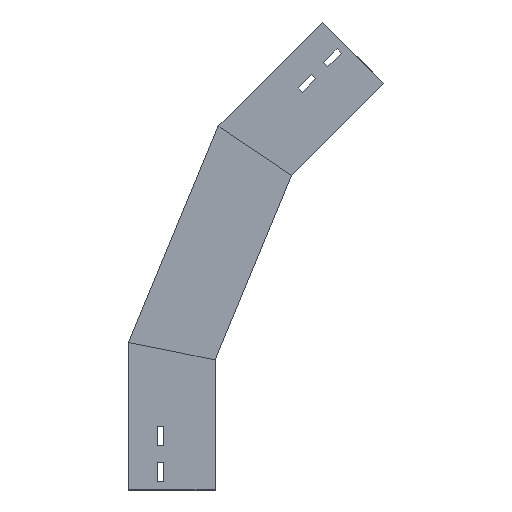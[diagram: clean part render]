
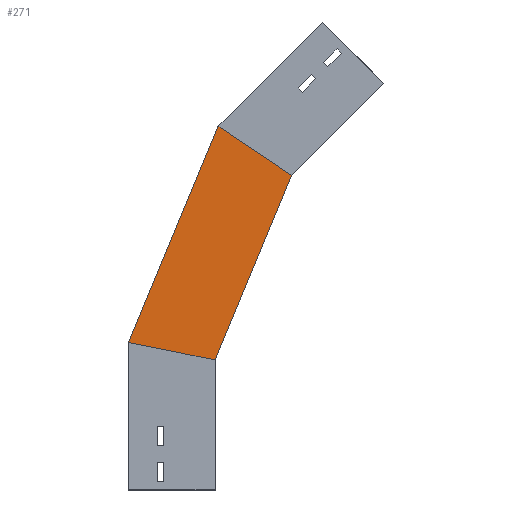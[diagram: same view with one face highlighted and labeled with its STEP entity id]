
A CAD part, left-side view. The second image highlights one B-rep face of the part: STEP entity #271.
In plain terms, the highlighted planar face has unit normal (-1, 0, 0) as drawn and (1, 0, 0) by its records, which use the part's own axes.
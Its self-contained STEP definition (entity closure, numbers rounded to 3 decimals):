
#22 = CARTESIAN_POINT ( 'NONE',  ( 0., -88.017, 362.492 ) ) ;
#78 = DIRECTION ( 'NONE',  ( 1., 0., 0. ) ) ;
#110 = CARTESIAN_POINT ( 'NONE',  ( 0., 8.412, 129.693 ) ) ;
#171 = EDGE_CURVE ( 'NONE', #604, #1416, #307, .T. ) ;
#181 = DIRECTION ( 'NONE',  ( 0., -0.981, -0.195 ) ) ;
#183 = VERTEX_POINT ( 'NONE', #1004 ) ;
#228 = DIRECTION ( 'NONE',  ( 0., -0.383, 0.924 ) ) ;
#271 = ADVANCED_FACE ( 'NONE', ( #1355 ), #1108, .T. ) ;
#278 = LINE ( 'NONE', #801, #475 ) ;
#307 = LINE ( 'NONE', #640, #1061 ) ;
#330 = VECTOR ( 'NONE', #815, 1000. ) ;
#475 = VECTOR ( 'NONE', #228, 1000. ) ;
#542 = CARTESIAN_POINT ( 'NONE',  ( 0., 0., 150. ) ) ;
#604 = VERTEX_POINT ( 'NONE', #1244 ) ;
#640 = CARTESIAN_POINT ( 'NONE',  ( 0., -28.701, 144.291 ) ) ;
#701 = EDGE_CURVE ( 'NONE', #1416, #1143, #951, .T. ) ;
#731 = DIRECTION ( 'NONE',  ( 0., -0.831, -0.556 ) ) ;
#763 = DIRECTION ( 'NONE',  ( 0., 0., -1. ) ) ;
#801 = CARTESIAN_POINT ( 'NONE',  ( 0., 100.799, 167.961 ) ) ;
#815 = DIRECTION ( 'NONE',  ( 0., -0.383, 0.924 ) ) ;
#831 = CARTESIAN_POINT ( 'NONE',  ( 0., -128.891, 335.181 ) ) ;
#840 = EDGE_CURVE ( 'NONE', #183, #1143, #987, .T. ) ;
#897 = ORIENTED_EDGE ( 'NONE', *, *, #840, .T. ) ;
#951 = LINE ( 'NONE', #1148, #330 ) ;
#987 = LINE ( 'NONE', #831, #1335 ) ;
#1004 = CARTESIAN_POINT ( 'NONE',  ( 0., -3.241, 419.138 ) ) ;
#1053 = ORIENTED_EDGE ( 'NONE', *, *, #1336, .T. ) ;
#1061 = VECTOR ( 'NONE', #181, 1000. ) ;
#1108 = PLANE ( 'NONE',  #1214 ) ;
#1109 = ORIENTED_EDGE ( 'NONE', *, *, #701, .F. ) ;
#1143 = VERTEX_POINT ( 'NONE', #22 ) ;
#1148 = CARTESIAN_POINT ( 'NONE',  ( 0., 8.412, 129.693 ) ) ;
#1214 = AXIS2_PLACEMENT_3D ( 'NONE', #110, #78, #763 ) ;
#1244 = CARTESIAN_POINT ( 'NONE',  ( 0., 100., 169.891 ) ) ;
#1335 = VECTOR ( 'NONE', #731, 1000. ) ;
#1336 = EDGE_CURVE ( 'NONE', #604, #183, #278, .T. ) ;
#1355 = FACE_OUTER_BOUND ( 'NONE', #1398, .T. ) ;
#1398 = EDGE_LOOP ( 'NONE', ( #1053, #897, #1109, #1412 ) ) ;
#1412 = ORIENTED_EDGE ( 'NONE', *, *, #171, .F. ) ;
#1416 = VERTEX_POINT ( 'NONE', #542 ) ;
